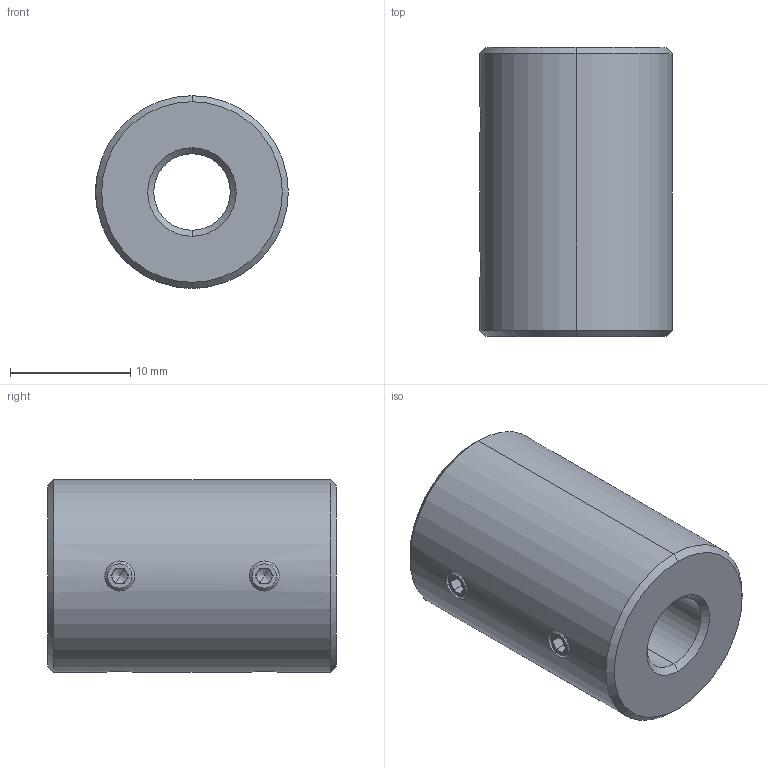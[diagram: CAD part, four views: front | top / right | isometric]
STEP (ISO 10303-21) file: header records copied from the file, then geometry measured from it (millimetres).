
FILE_DESCRIPTION (( 'STEP AP214' ), '1' );
FILE_NAME ('LL-D-D16L24-6.35-6.35.STEP', '2022-07-23T07:06:47', ( '' ), ( '' ), 'SwSTEP 2.0', 'SolidWorks 2022', '' );
FILE_SCHEMA (( 'AUTOMOTIVE_DESIGN' ));
Length unit declared in the file: millimetre
Products named in the file (1): LL-D-D16L24-6.35-6.35
Bounding box: 16 x 24 x 16 mm (x, y, z)
Volume: 4019 mm3; surface area: 2064.6 mm2
Topology: 1 solids, 1 shells, 110 faces, 280 edges, 172 vertices
Faces by surface type: plane 58, cone 32, cylinder 20
Entity records: 3558 total; most frequent: CARTESIAN_POINT 875, DIRECTION 566, ORIENTED_EDGE 544, EDGE_CURVE 272, AXIS2_PLACEMENT_3D 207, VERTEX_POINT 172, VECTOR 152, LINE 152
